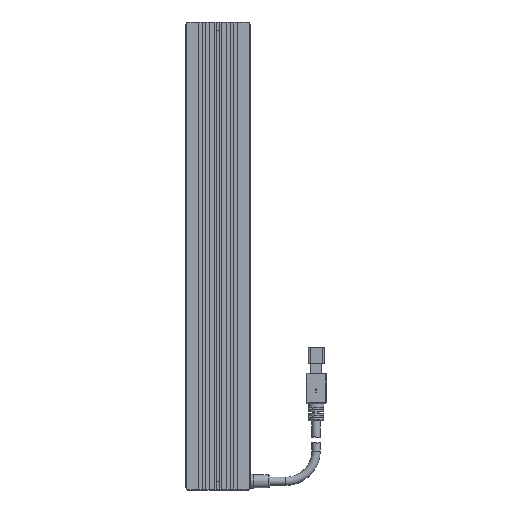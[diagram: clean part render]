
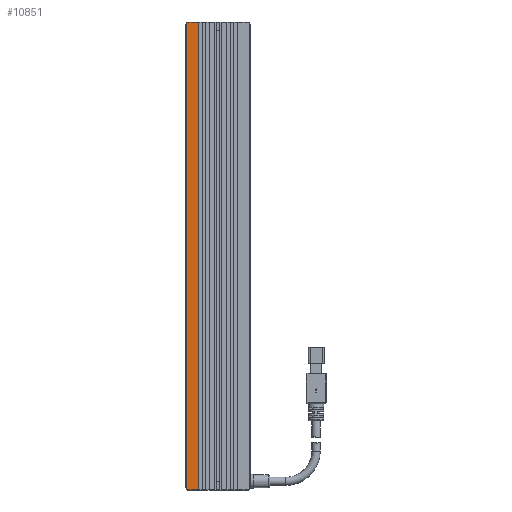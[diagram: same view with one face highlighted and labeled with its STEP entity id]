
A CAD part, top view. The second image highlights one B-rep face of the part: STEP entity #10851.
In plain terms, the highlighted planar face has unit normal (0, 0, 1).
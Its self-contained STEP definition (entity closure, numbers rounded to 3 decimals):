
#326 = DIRECTION ( 'NONE',  ( 1., 0., 0. ) ) ;
#1369 = CARTESIAN_POINT ( 'NONE',  ( -15.5, 116., 12.5 ) ) ;
#1908 = EDGE_CURVE ( 'NONE', #18785, #6388, #8599, .T. ) ;
#2096 = AXIS2_PLACEMENT_3D ( 'NONE', #15802, #9788, #8255 ) ;
#2532 = ORIENTED_EDGE ( 'NONE', *, *, #17569, .T. ) ;
#3203 = ORIENTED_EDGE ( 'NONE', *, *, #1908, .T. ) ;
#3682 = ORIENTED_EDGE ( 'NONE', *, *, #15745, .F. ) ;
#5743 = VECTOR ( 'NONE', #8291, 1000. ) ;
#6386 = CARTESIAN_POINT ( 'NONE',  ( -9.7, 116., 12.5 ) ) ;
#6388 = VERTEX_POINT ( 'NONE', #18732 ) ;
#6798 = PLANE ( 'NONE',  #2096 ) ;
#7054 = LINE ( 'NONE', #9434, #10147 ) ;
#7514 = VECTOR ( 'NONE', #16581, 1000. ) ;
#7552 = DIRECTION ( 'NONE',  ( 1., 0., 0. ) ) ;
#7769 = VERTEX_POINT ( 'NONE', #12966 ) ;
#8255 = DIRECTION ( 'NONE',  ( -1., 0., 0. ) ) ;
#8291 = DIRECTION ( 'NONE',  ( 0., -1., 0. ) ) ;
#8599 = LINE ( 'NONE', #14374, #5743 ) ;
#8773 = LINE ( 'NONE', #6386, #11642 ) ;
#8959 = CARTESIAN_POINT ( 'NONE',  ( -15., 116., 12.5 ) ) ;
#9119 = FACE_OUTER_BOUND ( 'NONE', #11087, .T. ) ;
#9163 = LINE ( 'NONE', #16635, #7514 ) ;
#9434 = CARTESIAN_POINT ( 'NONE',  ( -15.5, -116., 12.5 ) ) ;
#9788 = DIRECTION ( 'NONE',  ( 0., 0., -1. ) ) ;
#10086 = LINE ( 'NONE', #8959, #14855 ) ;
#10147 = VECTOR ( 'NONE', #326, 1000. ) ;
#10257 = VERTEX_POINT ( 'NONE', #17599 ) ;
#10851 = ADVANCED_FACE ( 'NONE', ( #9119 ), #6798, .F. ) ;
#11087 = EDGE_LOOP ( 'NONE', ( #12256, #13680, #3203, #2532, #18658, #3682 ) ) ;
#11361 = EDGE_CURVE ( 'NONE', #12573, #18042, #7054, .T. ) ;
#11642 = VECTOR ( 'NONE', #18448, 1000. ) ;
#11726 = EDGE_CURVE ( 'NONE', #7769, #10257, #13235, .T. ) ;
#11887 = VECTOR ( 'NONE', #7552, 1000. ) ;
#12097 = DIRECTION ( 'NONE',  ( -0.707, -0.707, 0. ) ) ;
#12256 = ORIENTED_EDGE ( 'NONE', *, *, #11726, .F. ) ;
#12573 = VERTEX_POINT ( 'NONE', #15374 ) ;
#12653 = EDGE_CURVE ( 'NONE', #7769, #18785, #10086, .T. ) ;
#12966 = CARTESIAN_POINT ( 'NONE',  ( -15., 116., 12.5 ) ) ;
#13235 = LINE ( 'NONE', #1369, #11887 ) ;
#13680 = ORIENTED_EDGE ( 'NONE', *, *, #12653, .T. ) ;
#14374 = CARTESIAN_POINT ( 'NONE',  ( -15.5, 116., 12.5 ) ) ;
#14855 = VECTOR ( 'NONE', #12097, 1000. ) ;
#15374 = CARTESIAN_POINT ( 'NONE',  ( -15., -116., 12.5 ) ) ;
#15745 = EDGE_CURVE ( 'NONE', #10257, #18042, #8773, .T. ) ;
#15802 = CARTESIAN_POINT ( 'NONE',  ( -15.5, 116., 12.5 ) ) ;
#16581 = DIRECTION ( 'NONE',  ( 0.707, -0.707, 0. ) ) ;
#16635 = CARTESIAN_POINT ( 'NONE',  ( -16., -115., 12.5 ) ) ;
#17040 = CARTESIAN_POINT ( 'NONE',  ( -15.5, 115.5, 12.5 ) ) ;
#17569 = EDGE_CURVE ( 'NONE', #6388, #12573, #9163, .T. ) ;
#17599 = CARTESIAN_POINT ( 'NONE',  ( -9.7, 116., 12.5 ) ) ;
#18042 = VERTEX_POINT ( 'NONE', #18210 ) ;
#18210 = CARTESIAN_POINT ( 'NONE',  ( -9.7, -116., 12.5 ) ) ;
#18448 = DIRECTION ( 'NONE',  ( 0., -1., 0. ) ) ;
#18658 = ORIENTED_EDGE ( 'NONE', *, *, #11361, .T. ) ;
#18732 = CARTESIAN_POINT ( 'NONE',  ( -15.5, -115.5, 12.5 ) ) ;
#18785 = VERTEX_POINT ( 'NONE', #17040 ) ;
